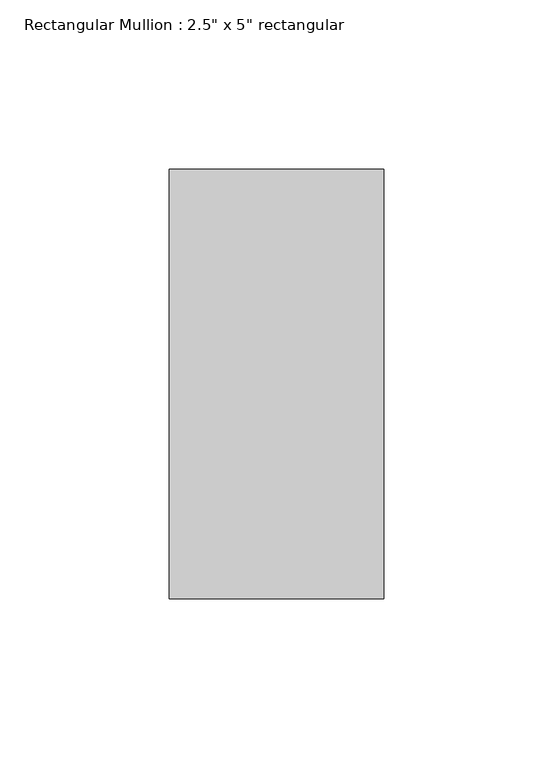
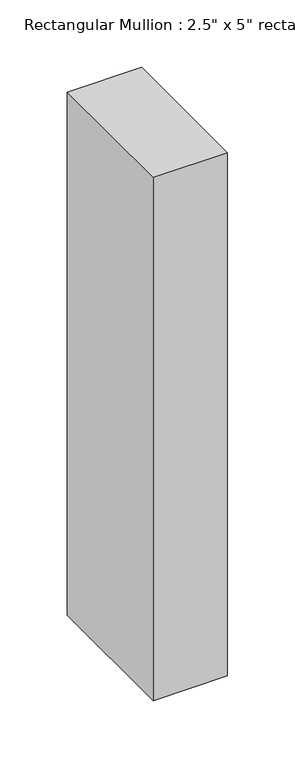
"""IFC4 building model written with IfcOpenShell, lengths in millimetres: member geometry."""

from ifc_helpers import new_model, si_unit, frame, origin, place, context, project, spatial, polyline, outline, extrude, source, transform, mapped, element, save


def member_60276a26(model_context):
    return source(origin(), model_context, "Body", "SweptSolid", [
        extrude(outline(polyline([(31.75, 63.5), (31.75, -63.5), (-31.75, -63.5), (-31.75, 63.5), (31.75, 63.5)])), frame((0.0, 0.0, -473.777684), z_axis=(0.0, 0.0, 1.0), x_axis=(1.0, 0.0, 0.0)), (0.0, 0.0, 1.0), 473.777684),
    ])


if __name__ == "__main__":
    model = new_model("IFC4")
    model_context = context("Model", 3, world=origin())
    ifc_project = project(units=[si_unit("LENGTHUNIT", "METRE", prefix="MILLI")], contexts=[model_context])
    site = spatial("IfcSite", under=ifc_project)
    building = spatial("IfcBuilding", under=site)
    placement = place(None, origin())
    member_shape = member_60276a26(model_context)
    element("IfcMember", 1, ObjectType="Rectangular Mullion : 2.5\" x 5\" rectangular", at=placement, inside=building, context=model_context, shape_type="MappedRepresentation", body=[
        mapped(member_shape, transform((0.0, 0.0, 0.0), x_axis=(1.0, 0.0, 0.0), y_axis=(0.0, 1.0, 0.0), z_axis=(0.0, 0.0, 1.0))),
    ])
    save(model, "model.ifc")
